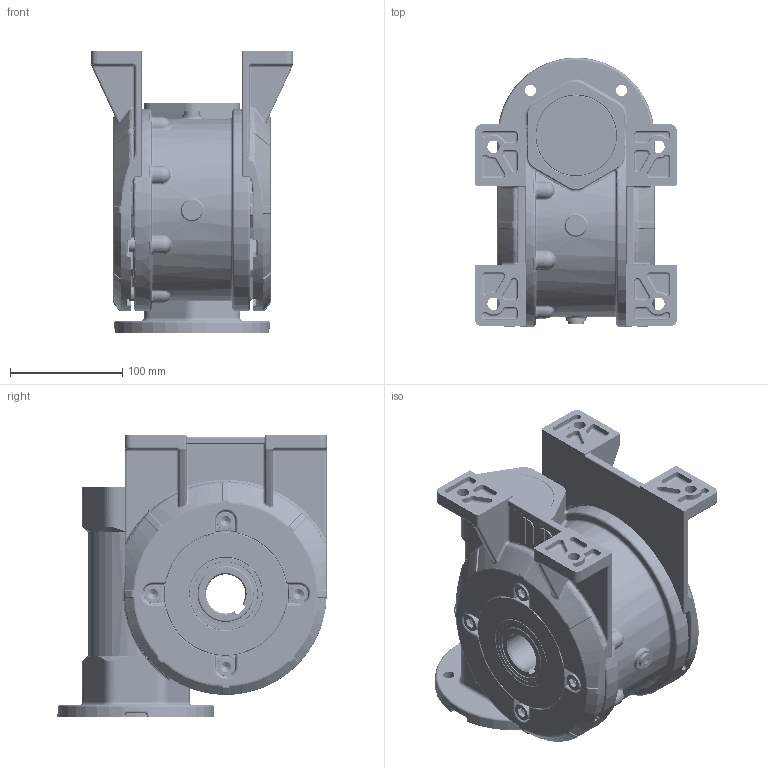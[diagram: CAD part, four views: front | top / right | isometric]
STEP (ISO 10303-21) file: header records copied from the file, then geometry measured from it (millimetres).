
FILE_DESCRIPTION (( 'STEP AP214' ), '1' );
FILE_NAME ('Sestava MRT80A-V.STEP', '2007-03-28T12:08:38', ( '' ), ( '' ), 'SwSTEP 2.0', 'SolidWorks 2004146', '' );
FILE_SCHEMA (( 'AUTOMOTIVE_DESIGN' ));
Products named in the file (18): D6912_Šroub DIN 6912 - M8x20; n029401b_Tìsnìní AS 50x65x8 DIN 3760-NB; skrin80BZ_Výchozí; priruba80FT_Výchozí; D6912_Šroub DIN 6912 - M6x20; D6912_Šroub DIN 6912 - M10x20; Adaptér patky 80_Výchozí; ZatkaM10x1DIN908_M10x1; Circlip for Bores normal_din_Circlip DIN 472 - 72 x 2.5; Sestava MRT80A-V; N024720_Ložisko SKF 30207 ÈSN 024720; Snek_80_Výchozí; N024720_Ložisko SKF 30306 ÈSN 024720; NBRvíèko72_Výchozí; SNEK_KOLO80_Výchozí; n029401b_Tìsnìní IS0 6194-1 35x55x8 Typ 4; pøíruba115-80_Výchozí; Radial Ball Bearing_68_DIN_DIN 625 - 6010 - 18,DE,NC,18_68
Assembly tree (40 placements, depth 2):
  Sestava MRT80A-V
    D6912_Šroub DIN 6912 - M6x20  x6
    D6912_Šroub DIN 6912 - M10x20  x8
    NBRvíèko72_Výchozí
    D6912_Šroub DIN 6912 - M8x20  x8
    skrin80BZ_Výchozí
    ZatkaM10x1DIN908_M10x1  x2
    SNEK_KOLO80_Výchozí
    Adaptér patky 80_Výchozí  x2
    Radial Ball Bearing_68_DIN_DIN 625 - 6010 - 18,DE,NC,18_68  x2
    N024720_Ložisko SKF 30306 ÈSN 024720
    Circlip for Bores normal_din_Circlip DIN 472 - 72 x 2.5
    n029401b_Tìsnìní IS0 6194-1 35x55x8 Typ 4
    priruba80FT_Výchozí
    pøíruba115-80_Výchozí
    Snek_80_Výchozí
    n029401b_Tìsnìní AS 50x65x8 DIN 3760-NB  x2
    N024720_Ložisko SKF 30207 ÈSN 024720
Bounding box: 180 x 240 x 252 mm (x, y, z)
Volume: 2869101.3 mm3; surface area: 770479 mm2
Topology: 40 solids, 40 shells, 5225 faces, 12780 edges, 7343 vertices
Faces by surface type: cylinder 1339, torus 1139, plane 1007, bspline 889, cone 615, sphere 236
Entity records: 369922 total; most frequent: CARTESIAN_POINT 289387, ORIENTED_EDGE 17118, DIRECTION 16780, EDGE_CURVE 8559, AXIS2_PLACEMENT_3D 7412, VERTEX_POINT 5089, CIRCLE 4480, EDGE_LOOP 3724
